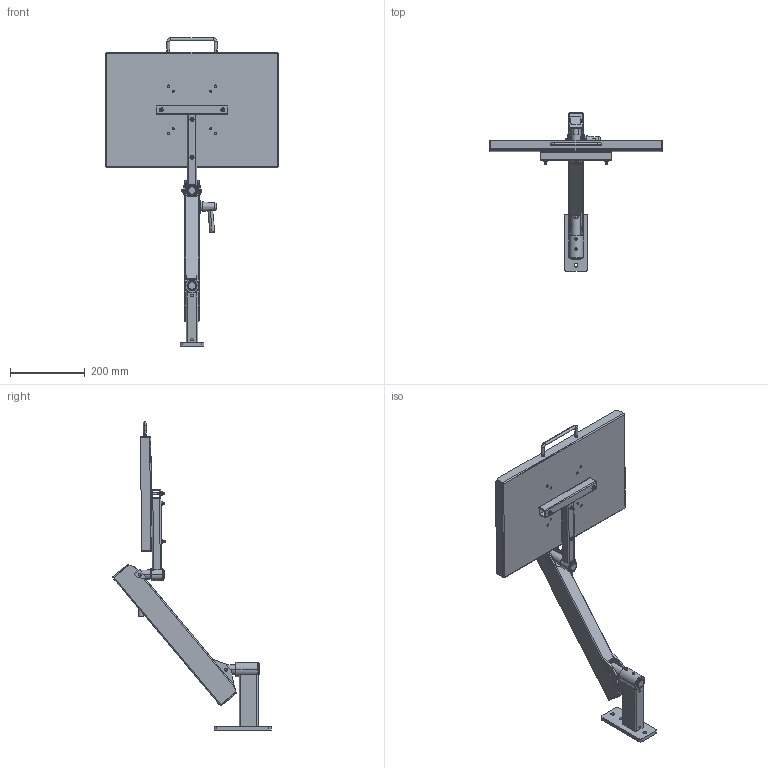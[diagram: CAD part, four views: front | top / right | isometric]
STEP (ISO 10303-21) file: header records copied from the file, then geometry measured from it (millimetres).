
FILE_DESCRIPTION (( 'STEP AP203' ), '1' );
FILE_NAME ('70-0721-00 REV AA, 13.5in FLEX SYSTEM, TOOL TRAY, WALL MOUNT W EXT - ANGLE UP.STEP', '2025-09-15T22:06:59', ( '' ), ( '' ), 'SwSTEP 2.0', 'SolidWorks 2025', '' );
FILE_SCHEMA (( 'CONFIG_CONTROL_DESIGN' ));
Length unit declared in the file: inch
Products named in the file (52): 71-0037-RX REV AA, PIVOT, THREADED; 71-0028-RX REV AA, TAB, MOUNT_MACHINE; 71-0038-RX REV AA, PIVOT, KNUCKLE, ELECTROLESS NICKEL; 005-084-00, BOLT, 1''4-20x2.75; 70-0401-00 REV AA, 18x12 SUPPORT TRAY ASSEMBLY; 016-008-00, OILITE PLUS BEARING, 0.876 id x 1.002 od x 1.25 lg; 71-0972-99 REV AA, END CAP, FLEX; 71-2113-RX REV AA, HOUSING, BEARING, TALL, 1.5OD_MACHINE; 71-0030-RX REV AA, KNUCKLE, LOAD_MACHINE; 11-0602-RX REV AA, HANDLE, BRAKE ASSEMBLY; 71-1301-BLKX REV AA, FLEX HOUSING, 13.5in, BLACK_Powder Coat; 71-0070-RX REV AA, AXLE PIN, SHORT; 006-004-00_006-004-00; 025-067-00, HANDLE, U SHAPED, 8-32; 71-0031-RX REV AA, KNUCKLE, MOUNT_MACHINE; 11-0401-00 REV AA, 18x12 TOOL TRAY, BLACK; 11-0601-99 REV AA, CONICAL KNOB, BRAKE ASSEMBLY; 004-050-00, WASHER, FIBER, .032 THK, .265ID; 71-0052-RX REV AA, HOUSING, T AND STRAIGHT BAR CROSS SECTION_MACHINE; 71-1300-RX REV AA, HOUSING, 13.5in FLEX; 71-0091-RX REV AA, HOUSING, WALL MOUNT, 6in EXTENSION; 70-0095-00 REV AA, STUD MOUNT, 6in EXT; 010-012-00, RETAINING RING, EXTERNAL, .875in SHAFT; 71-0029-RX REV AA, TAB, LOAD; 70-0721-00 REV AA, 13.5in FLEX SYSTEM, TOOL TRAY, WALL MOUNT W EXT - ANGLE UP; 71-1033-RX REV AA, BOLT, ADJUSTING, 10.9; 70-1321-00 REV AA, FLEX SECTION, 13.5in, 4-21 LB; 002-091-00, FHSCS, 10-32x1.5, BO_002-091-00; 006-059-00; 71-0013-RX REV AA, HOUSING, BEARING, SHORT_MACHINE; 006-008-00, NUT, HEX, 10-32 x .125_006-008-00; 002-100-00, BHSCS, 8-32x.375_002-100-00; 71-0040-RX REV AA, BRAKE BLOCK, WIDE_MACHINE; 007-031-00_007-031-00; 71-1032-RX REV AA, SPRING ROD, 13.5in FLEX; 013-062-00, SPRING, RED, 1x8_ISO425203; 11-0650-00 REV AA, BRAKE HANDLE ASSEMBLY; 11-0027-RX REV AA, PLASTIC DISC, BRAKE ASSEMBLY_MACHINE; 71-0047-RX REV AA, HOUSING, T AND STRAIGHT BAR_MACHINE; 11-0450-00 REV AA, FOAM, YELLOW, 18x12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
Assembly tree (80 placements, depth 4):
  70-0721-00 REV AA, 13.5in FLEX SYSTEM, TOOL TRAY, WALL MOUNT W EXT - ANGLE UP
    70-0095-00 REV AA, STUD MOUNT, 6in EXT
      71-0217-RX REV AA, PLATE, NARROW WALL MOUNT_Laser
      71-0091-RX REV AA, HOUSING, WALL MOUNT, 6in EXTENSION
      71-2113-RX REV AA, HOUSING, BEARING, TALL, 1.5OD_MACHINE
      016-007-00, OILITE PLUS BEARING, 0.876 id x 1.002 od x 0.75 lg
      016-008-00, OILITE PLUS BEARING, 0.876 id x 1.002 od x 1.25 lg
      007-036-00, SHSS, 1''4-28, .25L_007-036-00
    70-1321-00 REV AA, FLEX SECTION, 13.5in, 4-21 LB
      71-0031-RX REV AA, KNUCKLE, MOUNT_MACHINE
      71-1032-RX REV AA, SPRING ROD, 13.5in FLEX
      71-0030-RX REV AA, KNUCKLE, LOAD_MACHINE
      71-0038-RX REV AA, PIVOT, KNUCKLE, ELECTROLESS NICKEL
      71-1033-RX REV AA, BOLT, ADJUSTING, 10.9
      71-0037-RX REV AA, PIVOT, THREADED
      71-0040-RX REV AA, BRAKE BLOCK, WIDE_MACHINE
      71-1051-RX REV AA, SPRING BLOCK
      71-0070-RX REV AA, AXLE PIN, SHORT
      11-0027-RX REV AA, PLASTIC DISC, BRAKE ASSEMBLY_MACHINE
      11-0650-00 REV AA, BRAKE HANDLE ASSEMBLY
        11-0601-99 REV AA, CONICAL KNOB, BRAKE ASSEMBLY
        11-0602-RX REV AA, HANDLE, BRAKE ASSEMBLY
        11-0027-RX REV AA, PLASTIC DISC, BRAKE ASSEMBLY_MACHINE
        005-084-00, BOLT, 1''4-20x2.75
      71-1301-BLKX REV AA, FLEX HOUSING, 13.5in, BLACK_Powder Coat
        71-1300-RX REV AA, HOUSING, 13.5in FLEX
        71-0029-RX REV AA, TAB, LOAD  x2
        71-0028-RX REV AA, TAB, MOUNT_MACHINE  x2
      71-0071-RX REV AA, AXLE PIN, LONG
      010-011-00, RETAINING RING, EXT, .250 SHAFT_010-011-00  x4
      71-0972-99 REV AA, END CAP, FLEX  x2
      006-004-00_006-004-00  x2
      002-041-00_002-041-00  x2
      010-012-00, RETAINING RING, EXTERNAL, .875in SHAFT  x2
      011-033-00
      004-050-00, WASHER, FIBER, .032 THK, .265ID  x8
      011-020-00 REV AA, PIN, KNURLED, 1.0LG x .25OD  x2
      004-144-00  x3
      006-059-00
      013-062-00, SPRING, RED, 1x8_ISO425203
      016-070-00, BEARING, PLASTIC, .5ID x .625 OD x .75  x2
    70-0401-00 REV AA, 18x12 SUPPORT TRAY ASSEMBLY
      11-0401-00 REV AA, 18x12 TOOL TRAY, BLACK
      70-0050-00 REV AA, T BAR
        71-0047-RX REV AA, HOUSING, T AND STRAIGHT BAR_MACHINE
        71-0013-RX REV AA, HOUSING, BEARING, SHORT_MACHINE
        71-0052-RX REV AA, HOUSING, T AND STRAIGHT BAR CROSS SECTION_MACHINE
        016-008-00, OILITE PLUS BEARING, 0.876 id x 1.002 od x 1.25 lg
        007-031-00_007-031-00
      002-091-00, FHSCS, 10-32x1.5, BO_002-091-00  x4
      006-008-00, NUT, HEX, 10-32 x .125_006-008-00  x4
      025-067-00, HANDLE, U SHAPED, 8-32
      002-100-00, BHSCS, 8-32x.375_002-100-00  x2
      11-0450-00 REV AA, FOAM, YELLOW, 18x12
Bounding box: 461.77 x 423.04 x 824.58 mm (x, y, z)
Volume: 1632294.3 mm3; surface area: 1132002.9 mm2
Topology: 76 solids, 76 shells, 2046 faces, 4975 edges, 3075 vertices
Faces by surface type: cylinder 906, plane 567, cone 418, torus 89, bspline 56, sphere 10
Entity records: 90110 total; most frequent: CARTESIAN_POINT 54434, ORIENTED_EDGE 6182, DIRECTION 6087, EDGE_CURVE 3091, AXIS2_PLACEMENT_3D 2350, VERTEX_POINT 1921, EDGE_LOOP 1418, LINE 1387
